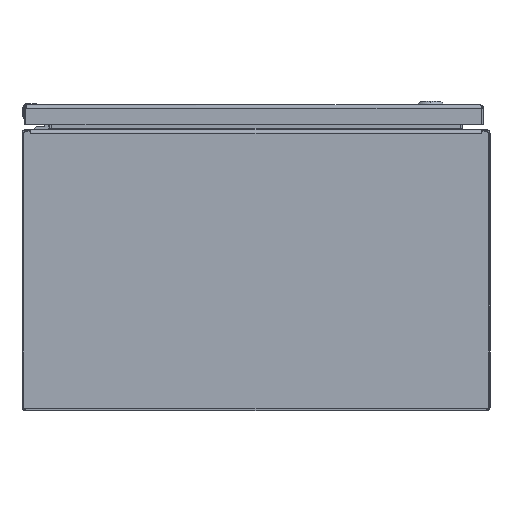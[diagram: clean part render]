
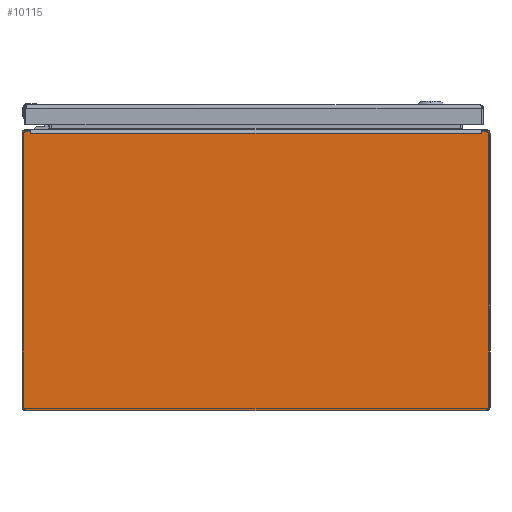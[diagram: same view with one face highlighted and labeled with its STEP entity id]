
A CAD part, front view. The second image highlights one B-rep face of the part: STEP entity #10115.
In plain terms, the highlighted planar face has unit normal (0, -1, 0).
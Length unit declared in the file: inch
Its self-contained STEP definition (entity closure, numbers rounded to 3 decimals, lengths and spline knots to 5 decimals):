
#8906=CARTESIAN_POINT('',(-9.915,0.,5.934));
#8907=DIRECTION('',(0.,-1.,0.));
#8908=DIRECTION('',(0.,0.,1.));
#8909=AXIS2_PLACEMENT_3D('',#8906,#8907,#8908);
#8914=DIRECTION('',(1.,0.,0.));
#8915=VECTOR('',#8914,0.2939);
#8916=CARTESIAN_POINT('',(-9.915,0.,5.994));
#8917=LINE('',#8916,#8915);
#8921=DIRECTION('',(1.,0.,0.));
#8922=VECTOR('',#8921,0.2939);
#8923=CARTESIAN_POINT('',(9.6211,0.,5.994));
#8924=LINE('',#8923,#8922);
#8928=CARTESIAN_POINT('',(9.915,0.,5.934));
#8929=DIRECTION('',(0.,-1.,0.));
#8930=DIRECTION('',(1.,0.,0.));
#8931=AXIS2_PLACEMENT_3D('',#8928,#8929,#8930);
#8936=DIRECTION('',(0.,0.,-1.));
#8937=VECTOR('',#8936,11.765);
#8938=CARTESIAN_POINT('',(9.975,0.,5.934));
#8939=LINE('',#8938,#8937);
#8943=CARTESIAN_POINT('',(9.85,0.,-5.831));
#8944=DIRECTION('',(0.,-1.,0.));
#8945=DIRECTION('',(0.,0.,-1.));
#8946=AXIS2_PLACEMENT_3D('',#8943,#8944,#8945);
#8951=DIRECTION('',(-1.,0.,0.));
#8952=VECTOR('',#8951,19.7);
#8953=CARTESIAN_POINT('',(9.85,0.,-5.956));
#8954=LINE('',#8953,#8952);
#8958=CARTESIAN_POINT('',(-9.85,0.,-5.831));
#8959=DIRECTION('',(0.,-1.,0.));
#8960=DIRECTION('',(-1.,0.,0.));
#8961=AXIS2_PLACEMENT_3D('',#8958,#8959,#8960);
#8966=DIRECTION('',(0.,0.,-1.));
#8967=VECTOR('',#8966,11.765);
#8968=CARTESIAN_POINT('',(-9.975,0.,5.934));
#8969=LINE('',#8968,#8967);
#9036=DIRECTION('',(0.,0.,-1.));
#9037=VECTOR('',#9036,0.125);
#9038=CARTESIAN_POINT('',(9.6211,0.,5.994));
#9039=LINE('',#9038,#9037);
#9624=DIRECTION('',(1.,0.,0.));
#9625=VECTOR('',#9624,19.2422);
#9626=CARTESIAN_POINT('',(-9.6211,0.,5.869));
#9627=LINE('',#9626,#9625);
#9661=DIRECTION('',(0.,0.,1.));
#9662=VECTOR('',#9661,0.125);
#9663=CARTESIAN_POINT('',(-9.6211,0.,5.869));
#9664=LINE('',#9663,#9662);
#9920=CARTESIAN_POINT('',(-9.6211,0.,5.869));
#9921=CARTESIAN_POINT('',(9.6211,0.,5.869));
#9922=VERTEX_POINT('',#9920);
#9923=VERTEX_POINT('',#9921);
#10004=CARTESIAN_POINT('',(-9.6211,0.,5.994));
#10006=VERTEX_POINT('',#10004);
#10008=CARTESIAN_POINT('',(9.6211,0.,5.994));
#10010=VERTEX_POINT('',#10008);
#10052=CARTESIAN_POINT('',(-9.915,0.,5.994));
#10053=CARTESIAN_POINT('',(-9.975,0.,5.934));
#10054=VERTEX_POINT('',#10052);
#10055=VERTEX_POINT('',#10053);
#10060=CARTESIAN_POINT('',(9.975,0.,5.934));
#10061=CARTESIAN_POINT('',(9.915,0.,5.994));
#10062=VERTEX_POINT('',#10060);
#10063=VERTEX_POINT('',#10061);
#10068=CARTESIAN_POINT('',(-9.975,0.,-5.831));
#10069=CARTESIAN_POINT('',(-9.85,0.,-5.956));
#10070=VERTEX_POINT('',#10068);
#10071=VERTEX_POINT('',#10069);
#10076=CARTESIAN_POINT('',(9.85,0.,-5.956));
#10077=CARTESIAN_POINT('',(9.975,0.,-5.831));
#10078=VERTEX_POINT('',#10076);
#10079=VERTEX_POINT('',#10077);
#10084=CARTESIAN_POINT('',(0.,0.,0.));
#10085=DIRECTION('',(0.,-1.,0.));
#10086=DIRECTION('',(-1.,0.,0.));
#10087=AXIS2_PLACEMENT_3D('',#10084,#10085,#10086);
#10088=PLANE('',#10087);
#10090=ORIENTED_EDGE('',*,*,#10089,.F.);
#10092=ORIENTED_EDGE('',*,*,#10091,.T.);
#10094=ORIENTED_EDGE('',*,*,#10093,.F.);
#10096=ORIENTED_EDGE('',*,*,#10095,.T.);
#10098=ORIENTED_EDGE('',*,*,#10097,.F.);
#10100=ORIENTED_EDGE('',*,*,#10099,.T.);
#10102=ORIENTED_EDGE('',*,*,#10101,.F.);
#10104=ORIENTED_EDGE('',*,*,#10103,.T.);
#10106=ORIENTED_EDGE('',*,*,#10105,.F.);
#10108=ORIENTED_EDGE('',*,*,#10107,.T.);
#10110=ORIENTED_EDGE('',*,*,#10109,.F.);
#10112=ORIENTED_EDGE('',*,*,#10111,.F.);
#10113=EDGE_LOOP('',(#10090,#10092,#10094,#10096,#10098,#10100,#10102,#10104,
#10106,#10108,#10110,#10112));
#10114=FACE_OUTER_BOUND('',#10113,.F.);
#8910=CIRCLE('',#8909,0.06);
#8932=CIRCLE('',#8931,0.06);
#8947=CIRCLE('',#8946,0.125);
#8962=CIRCLE('',#8961,0.125);
#10089=EDGE_CURVE('',#10054,#10055,#8910,.T.);
#10091=EDGE_CURVE('',#10054,#10006,#8917,.T.);
#10093=EDGE_CURVE('',#9922,#10006,#9664,.T.);
#10095=EDGE_CURVE('',#9922,#9923,#9627,.T.);
#10097=EDGE_CURVE('',#10010,#9923,#9039,.T.);
#10099=EDGE_CURVE('',#10010,#10063,#8924,.T.);
#10101=EDGE_CURVE('',#10062,#10063,#8932,.T.);
#10103=EDGE_CURVE('',#10062,#10079,#8939,.T.);
#10105=EDGE_CURVE('',#10078,#10079,#8947,.T.);
#10107=EDGE_CURVE('',#10078,#10071,#8954,.T.);
#10109=EDGE_CURVE('',#10070,#10071,#8962,.T.);
#10111=EDGE_CURVE('',#10055,#10070,#8969,.T.);
#10115=ADVANCED_FACE('',(#10114),#10088,.T.);
